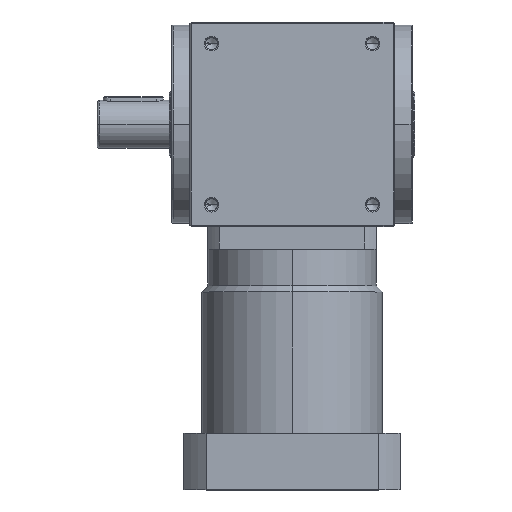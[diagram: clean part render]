
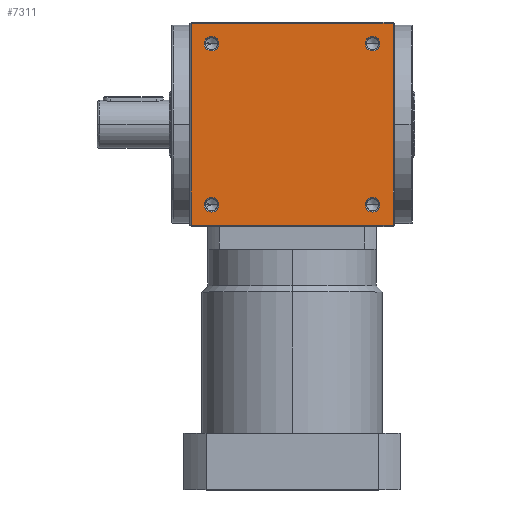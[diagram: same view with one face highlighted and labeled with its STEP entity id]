
A CAD part, top view. The second image highlights one B-rep face of the part: STEP entity #7311.
In plain terms, the highlighted planar face has unit normal (0, 0, 1).
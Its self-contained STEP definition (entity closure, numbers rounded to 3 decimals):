
#269 = CIRCLE ( 'NONE', #6394, 6.1 ) ;
#367 = AXIS2_PLACEMENT_3D ( 'NONE', #5380, #5348, #9748 ) ;
#430 = CARTESIAN_POINT ( 'NONE',  ( 84., 84., 85. ) ) ;
#525 = EDGE_CURVE ( 'NONE', #9423, #8484, #1230, .T. ) ;
#682 = ORIENTED_EDGE ( 'NONE', *, *, #11760, .F. ) ;
#790 = VERTEX_POINT ( 'NONE', #1849 ) ;
#792 = CARTESIAN_POINT ( 'NONE',  ( 67., -67., 85. ) ) ;
#845 = AXIS2_PLACEMENT_3D ( 'NONE', #6538, #1013, #7476 ) ;
#882 = DIRECTION ( 'NONE',  ( 1., 0., 0. ) ) ;
#1013 = DIRECTION ( 'NONE',  ( 0., 0., 1. ) ) ;
#1070 = ORIENTED_EDGE ( 'NONE', *, *, #9377, .F. ) ;
#1145 = VERTEX_POINT ( 'NONE', #10200 ) ;
#1230 = CIRCLE ( 'NONE', #367, 6.1 ) ;
#1570 = DIRECTION ( 'NONE',  ( 0., 0., 1. ) ) ;
#1699 = FACE_OUTER_BOUND ( 'NONE', #2202, .T. ) ;
#1740 = VERTEX_POINT ( 'NONE', #3015 ) ;
#1744 = DIRECTION ( 'NONE',  ( 1., 0., 0. ) ) ;
#1784 = DIRECTION ( 'NONE',  ( 0., 0., -1. ) ) ;
#1849 = CARTESIAN_POINT ( 'NONE',  ( 60.9, 67., 85. ) ) ;
#2020 = AXIS2_PLACEMENT_3D ( 'NONE', #7108, #1570, #8025 ) ;
#2076 = VERTEX_POINT ( 'NONE', #4681 ) ;
#2185 = LINE ( 'NONE', #3444, #2252 ) ;
#2202 = EDGE_LOOP ( 'NONE', ( #5799, #6774, #1070, #2553 ) ) ;
#2235 = AXIS2_PLACEMENT_3D ( 'NONE', #10625, #5065, #11578 ) ;
#2237 = CARTESIAN_POINT ( 'NONE',  ( 60.9, -67., 85. ) ) ;
#2252 = VECTOR ( 'NONE', #6203, 1000. ) ;
#2286 = DIRECTION ( 'NONE',  ( -1., 0., 0. ) ) ;
#2313 = EDGE_LOOP ( 'NONE', ( #682, #9356 ) ) ;
#2322 = CARTESIAN_POINT ( 'NONE',  ( 0., -84., 85. ) ) ;
#2481 = CARTESIAN_POINT ( 'NONE',  ( -84., 84., 85. ) ) ;
#2553 = ORIENTED_EDGE ( 'NONE', *, *, #11023, .F. ) ;
#2708 = VERTEX_POINT ( 'NONE', #5196 ) ;
#2866 = EDGE_CURVE ( 'NONE', #5627, #3993, #4504, .T. ) ;
#2918 = CARTESIAN_POINT ( 'NONE',  ( 67., 67., 85. ) ) ;
#3015 = CARTESIAN_POINT ( 'NONE',  ( 73.1, 67., 85. ) ) ;
#3021 = DIRECTION ( 'NONE',  ( -1., 0., 0. ) ) ;
#3201 = LINE ( 'NONE', #5646, #9901 ) ;
#3376 = CARTESIAN_POINT ( 'NONE',  ( 0., 84., 85. ) ) ;
#3444 = CARTESIAN_POINT ( 'NONE',  ( 84., 0., 85. ) ) ;
#3761 = EDGE_CURVE ( 'NONE', #10690, #1145, #5807, .T. ) ;
#3832 = VECTOR ( 'NONE', #2286, 1000. ) ;
#3855 = DIRECTION ( 'NONE',  ( 1., 0., 0. ) ) ;
#3939 = LINE ( 'NONE', #2322, #3832 ) ;
#3956 = VECTOR ( 'NONE', #3021, 1000. ) ;
#3993 = VERTEX_POINT ( 'NONE', #2481 ) ;
#4146 = ORIENTED_EDGE ( 'NONE', *, *, #11625, .F. ) ;
#4367 = CIRCLE ( 'NONE', #6219, 6.1 ) ;
#4504 = LINE ( 'NONE', #3376, #3956 ) ;
#4632 = EDGE_CURVE ( 'NONE', #9069, #6889, #9134, .T. ) ;
#4681 = CARTESIAN_POINT ( 'NONE',  ( -84., -84., 85. ) ) ;
#4751 = CARTESIAN_POINT ( 'NONE',  ( -73.1, -67., 85. ) ) ;
#5065 = DIRECTION ( 'NONE',  ( 0., 0., 1. ) ) ;
#5196 = CARTESIAN_POINT ( 'NONE',  ( 84., -84., 85. ) ) ;
#5348 = DIRECTION ( 'NONE',  ( 0., 0., 1. ) ) ;
#5380 = CARTESIAN_POINT ( 'NONE',  ( -67., -67., 85. ) ) ;
#5471 = FACE_BOUND ( 'NONE', #2313, .T. ) ;
#5627 = VERTEX_POINT ( 'NONE', #430 ) ;
#5646 = CARTESIAN_POINT ( 'NONE',  ( -84., 0., 85. ) ) ;
#5799 = ORIENTED_EDGE ( 'NONE', *, *, #6812, .F. ) ;
#5807 = CIRCLE ( 'NONE', #11304, 6.1 ) ;
#5830 = CIRCLE ( 'NONE', #2235, 6.1 ) ;
#6176 = DIRECTION ( 'NONE',  ( 1., 0., 0. ) ) ;
#6203 = DIRECTION ( 'NONE',  ( 0., -1., 0. ) ) ;
#6216 = DIRECTION ( 'NONE',  ( 0., 0., 1. ) ) ;
#6219 = AXIS2_PLACEMENT_3D ( 'NONE', #12006, #6425, #882 ) ;
#6258 = CARTESIAN_POINT ( 'NONE',  ( -67., 67., 85. ) ) ;
#6336 = AXIS2_PLACEMENT_3D ( 'NONE', #792, #7259, #1744 ) ;
#6394 = AXIS2_PLACEMENT_3D ( 'NONE', #2918, #9392, #3855 ) ;
#6425 = DIRECTION ( 'NONE',  ( 0., 0., 1. ) ) ;
#6538 = CARTESIAN_POINT ( 'NONE',  ( 67., 67., 85. ) ) ;
#6774 = ORIENTED_EDGE ( 'NONE', *, *, #2866, .T. ) ;
#6811 = EDGE_LOOP ( 'NONE', ( #4146, #8843 ) ) ;
#6812 = EDGE_CURVE ( 'NONE', #5627, #2708, #2185, .T. ) ;
#6889 = VERTEX_POINT ( 'NONE', #9144 ) ;
#6974 = EDGE_CURVE ( 'NONE', #790, #1740, #11955, .T. ) ;
#7108 = CARTESIAN_POINT ( 'NONE',  ( 67., -67., 85. ) ) ;
#7259 = DIRECTION ( 'NONE',  ( 0., 0., 1. ) ) ;
#7280 = CIRCLE ( 'NONE', #2020, 6.1 ) ;
#7295 = CARTESIAN_POINT ( 'NONE',  ( 0., 0., 85. ) ) ;
#7311 = ADVANCED_FACE ( 'NONE', ( #10605, #5471, #10762, #10612, #1699 ), #8199, .F. ) ;
#7473 = DIRECTION ( 'NONE',  ( 0., 1., 0. ) ) ;
#7476 = DIRECTION ( 'NONE',  ( 1., 0., 0. ) ) ;
#8025 = DIRECTION ( 'NONE',  ( 1., 0., 0. ) ) ;
#8199 = PLANE ( 'NONE',  #8792 ) ;
#8218 = EDGE_LOOP ( 'NONE', ( #11264, #10354 ) ) ;
#8241 = DIRECTION ( 'NONE',  ( -1., 0., 0. ) ) ;
#8484 = VERTEX_POINT ( 'NONE', #8543 ) ;
#8543 = CARTESIAN_POINT ( 'NONE',  ( -60.9, -67., 85. ) ) ;
#8792 = AXIS2_PLACEMENT_3D ( 'NONE', #7295, #1784, #8241 ) ;
#8843 = ORIENTED_EDGE ( 'NONE', *, *, #6974, .F. ) ;
#9069 = VERTEX_POINT ( 'NONE', #2237 ) ;
#9134 = CIRCLE ( 'NONE', #6336, 6.1 ) ;
#9144 = CARTESIAN_POINT ( 'NONE',  ( 73.1, -67., 85. ) ) ;
#9356 = ORIENTED_EDGE ( 'NONE', *, *, #525, .F. ) ;
#9377 = EDGE_CURVE ( 'NONE', #2076, #3993, #3201, .T. ) ;
#9392 = DIRECTION ( 'NONE',  ( 0., 0., 1. ) ) ;
#9423 = VERTEX_POINT ( 'NONE', #4751 ) ;
#9748 = DIRECTION ( 'NONE',  ( 1., 0., 0. ) ) ;
#9901 = VECTOR ( 'NONE', #7473, 1000. ) ;
#10142 = ORIENTED_EDGE ( 'NONE', *, *, #11306, .F. ) ;
#10152 = EDGE_LOOP ( 'NONE', ( #10142, #10932 ) ) ;
#10200 = CARTESIAN_POINT ( 'NONE',  ( -60.9, 67., 85. ) ) ;
#10354 = ORIENTED_EDGE ( 'NONE', *, *, #4632, .F. ) ;
#10605 = FACE_BOUND ( 'NONE', #8218, .T. ) ;
#10612 = FACE_BOUND ( 'NONE', #10152, .T. ) ;
#10625 = CARTESIAN_POINT ( 'NONE',  ( -67., -67., 85. ) ) ;
#10690 = VERTEX_POINT ( 'NONE', #10985 ) ;
#10762 = FACE_BOUND ( 'NONE', #6811, .T. ) ;
#10932 = ORIENTED_EDGE ( 'NONE', *, *, #3761, .F. ) ;
#10985 = CARTESIAN_POINT ( 'NONE',  ( -73.1, 67., 85. ) ) ;
#11023 = EDGE_CURVE ( 'NONE', #2708, #2076, #3939, .T. ) ;
#11264 = ORIENTED_EDGE ( 'NONE', *, *, #11836, .F. ) ;
#11304 = AXIS2_PLACEMENT_3D ( 'NONE', #6258, #6216, #6176 ) ;
#11306 = EDGE_CURVE ( 'NONE', #1145, #10690, #4367, .T. ) ;
#11578 = DIRECTION ( 'NONE',  ( 1., 0., 0. ) ) ;
#11625 = EDGE_CURVE ( 'NONE', #1740, #790, #269, .T. ) ;
#11760 = EDGE_CURVE ( 'NONE', #8484, #9423, #5830, .T. ) ;
#11836 = EDGE_CURVE ( 'NONE', #6889, #9069, #7280, .T. ) ;
#11955 = CIRCLE ( 'NONE', #845, 6.1 ) ;
#12006 = CARTESIAN_POINT ( 'NONE',  ( -67., 67., 85. ) ) ;
